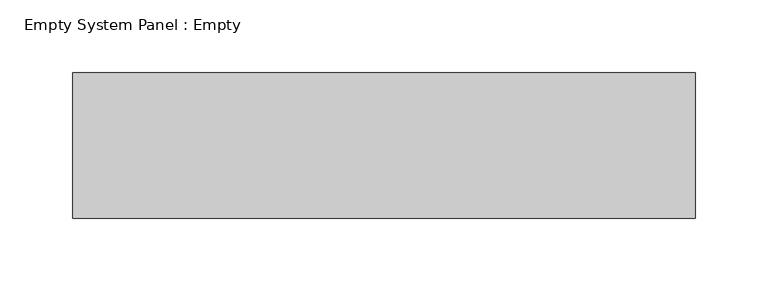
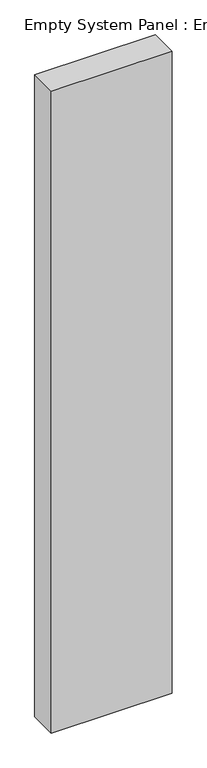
"""IFC4 building model written with IfcOpenShell, lengths in millimetres: plate geometry, Empty System Panel : Empty."""

from ifc_helpers import new_model, si_unit, origin, origin_with_axes, place, context, project, spatial, polyline, outline, extrude, source, transform, mapped, element, save


def empty_system_panel_empty_6f6467e8(model_context):
    return source(origin(), model_context, "Body", "SweptSolid", [
        extrude(outline(polyline([(213.7500001, 50.0), (-213.7500001, 50.0), (-213.7500001, 150.0), (213.7500001, 150.0), (213.7500001, 50.0)])), origin_with_axes(), (0.0, 0.0, 1.0), 2400.0),
    ])


if __name__ == "__main__":
    model = new_model("IFC4")
    model_context = context("Model", 3, world=origin())
    ifc_project = project(units=[si_unit("LENGTHUNIT", "METRE", prefix="MILLI")], contexts=[model_context])
    site = spatial("IfcSite", under=ifc_project)
    building = spatial("IfcBuilding", under=site)
    placement = place(None, origin())
    empty_system_panel_empty_shape = empty_system_panel_empty_6f6467e8(model_context)
    element("IfcPlate", 1, ObjectType="Empty System Panel : Empty", at=placement, inside=building, context=model_context, shape_type="MappedRepresentation", body=[
        mapped(empty_system_panel_empty_shape, transform((0.0, 0.0, 0.0), x_axis=(1.0, 0.0, 0.0), y_axis=(0.0, 1.0, 0.0), z_axis=(0.0, 0.0, 1.0))),
    ])
    save(model, "model.ifc")
